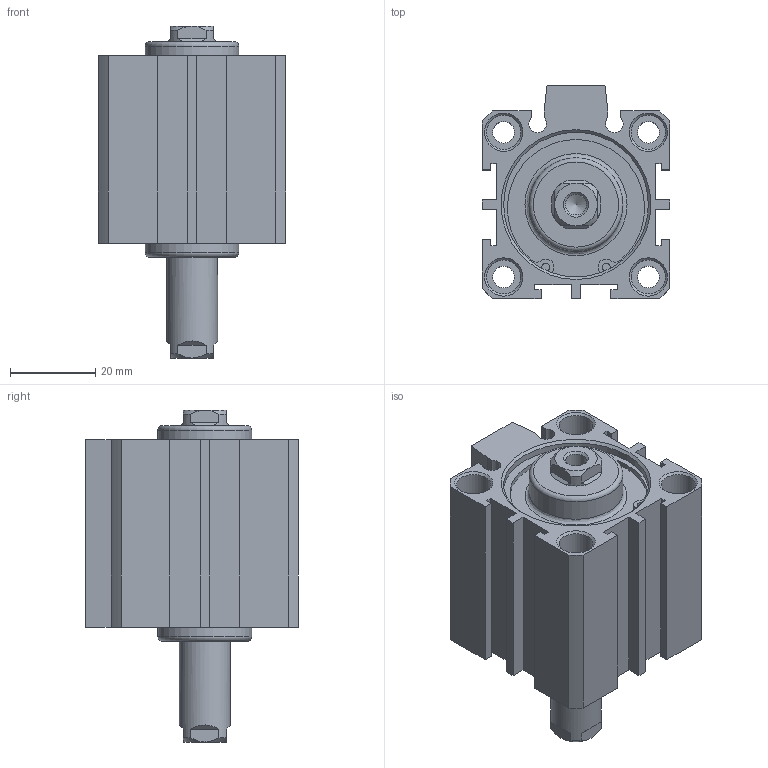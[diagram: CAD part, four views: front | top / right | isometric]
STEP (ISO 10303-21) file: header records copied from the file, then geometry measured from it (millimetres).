
FILE_DESCRIPTION((''),'2;1');
FILE_NAME('I:\3D電子目錄\氣缸\JDD\JDD\JDD32\JDD32x20.stp','2007-02-08T09:58:00',('662F206'),(''),'Autodesk Inventor 10','Autodesk Inventor 10','');
FILE_SCHEMA(('AUTOMOTIVE_DESIGN { 1 0 10303 214 1 1 1 1 }'));
Length unit declared in the file: millimetre
Products named in the file (3): JDD32; R 形環 35
Assembly tree (3 placements, depth 2):
  JDD32
    JDD32
    R 形環 35  x2
Bounding box: 44 x 50 x 78 mm (x, y, z)
Volume: 75429.5 mm3; surface area: 23715.9 mm2
Topology: 3 solids, 3 shells, 177 faces, 425 edges, 276 vertices
Faces by surface type: plane 94, cylinder 49, cone 22, bspline 10, torus 2
Full cylindrical faces by diameter (mm): 1.9 x4, 2.2 x2, 5.1 x4, 8 x8, 12 x1, 22 x2, 34 x4, 36 x2
Entity records: 4715 total; most frequent: CARTESIAN_POINT 983, DIRECTION 774, ORIENTED_EDGE 674, EDGE_CURVE 337, AXIS2_PLACEMENT_3D 292, EDGE_LOOP 248, VERTEX_POINT 247, VECTOR 190
